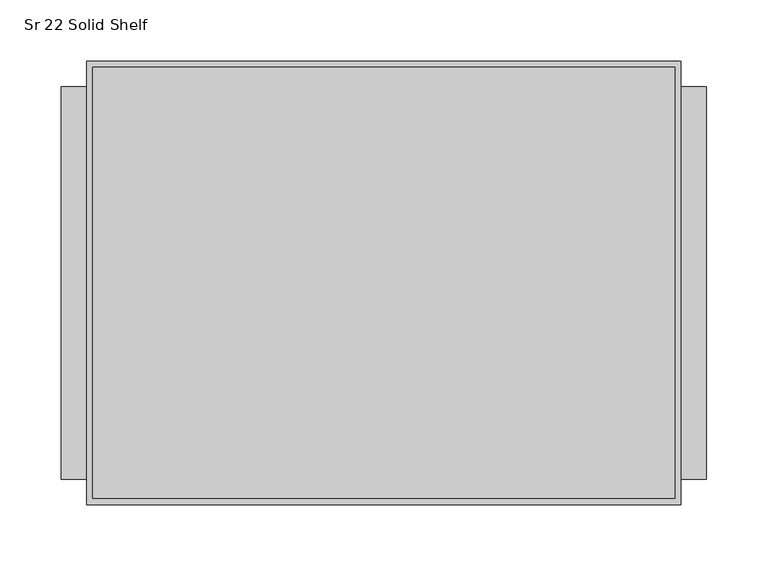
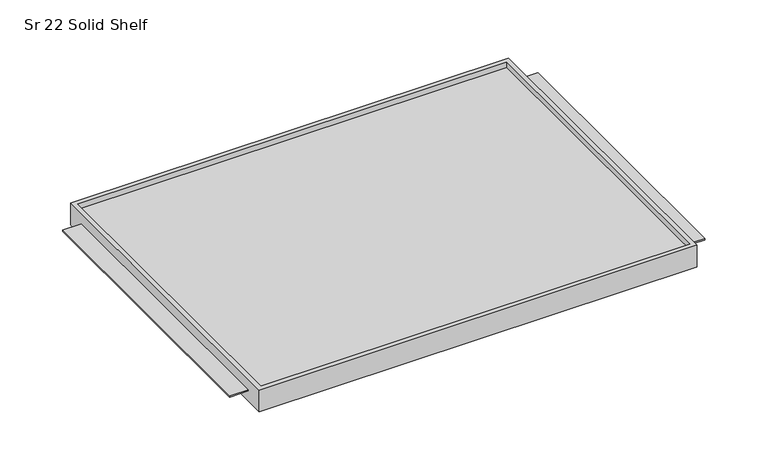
"""IFC4 building model written with IfcOpenShell, lengths in millimetres: furniture geometry, HermanMiller_Carts_CT521_CartShelf : Sr 22 Solid Shelf."""

from ifc_helpers import new_model, si_unit, frame, origin, place, context, project, spatial, polyline, outline, extrude, faceted_brep, source, transform, mapped, element, save


def sr_22_solid_shelf_a9f679cd(model_context):
    return source(origin(), model_context, "Body", "SolidModel", [
        extrude(outline(polyline([(-299.9701517, -185.7375), (-320.6076517, -185.7375), (-320.6076517, 134.9375), (-299.9701517, 134.9375), (-299.9701517, -185.7375)])), frame((0.0, 0.0, 1934.36875), z_axis=(0.0, 0.0, 1.0), x_axis=(1.0, 0.0, 0.0)), (0.0, 0.0, 1.0), 1.5875),
        extrude(outline(polyline([(206.4423483, 134.9375), (206.4423483, -185.7375), (180.7248483, -185.7375), (180.7248483, 134.9375), (206.4423483, 134.9375)])), frame((0.0, 0.0, 1934.36875), z_axis=(0.0, 0.0, 1.0), x_axis=(1.0, 0.0, 0.0)), (0.0, 0.0, 1.0), 1.5875),
        faceted_brep([(185.8048483, -206.375, 1947.8625), (-299.9701517, -206.375, 1947.8625), (-299.9701517, -206.375, 1922.4625), (185.8048483, -206.375, 1922.4625), (185.8048483, 155.575, 1947.8625), (185.8048483, 155.575, 1922.4625), (-299.9701517, 155.575, 1922.4625), (-299.9701517, 155.575, 1947.8625), (-294.8901517, 150.495, 1947.8625), (180.7248483, 150.495, 1947.8625), (180.7248483, -201.295, 1947.8625), (-294.8901517, -201.295, 1947.8625), (180.7248483, 150.495, 1941.5125), (-294.8901517, 150.495, 1941.5125), (-294.8901517, -201.295, 1941.5125), (180.7248483, -201.295, 1941.5125)], [[[0, 1, 2, 3]], [[4, 5, 6, 7]], [[1, 0, 4, 7], [8, 9, 10, 11]], [[2, 1, 7, 6]], [[3, 2, 6, 5]], [[0, 3, 5, 4]], [[12, 13, 14, 15]], [[13, 12, 9, 8]], [[14, 13, 8, 11]], [[15, 14, 11, 10]], [[12, 15, 10, 9]]]),
    ])


if __name__ == "__main__":
    model = new_model("IFC4")
    model_context = context("Model", 3, world=origin())
    ifc_project = project(units=[si_unit("LENGTHUNIT", "METRE", prefix="MILLI")], contexts=[model_context])
    site = spatial("IfcSite", under=ifc_project)
    building = spatial("IfcBuilding", under=site)
    placement = place(None, origin())
    sr_22_solid_shelf_shape = sr_22_solid_shelf_a9f679cd(model_context)
    element("IfcFurniture", 1, ObjectType="HermanMiller_Carts_CT521_CartShelf : Sr 22 Solid Shelf", at=placement, inside=building, context=model_context, shape_type="MappedRepresentation", body=[
        mapped(sr_22_solid_shelf_shape, transform((0.0, 0.0, 0.0), x_axis=(1.0, 0.0, 0.0), y_axis=(0.0, 1.0, 0.0), z_axis=(0.0, 0.0, 1.0))),
    ])
    save(model, "model.ifc")
